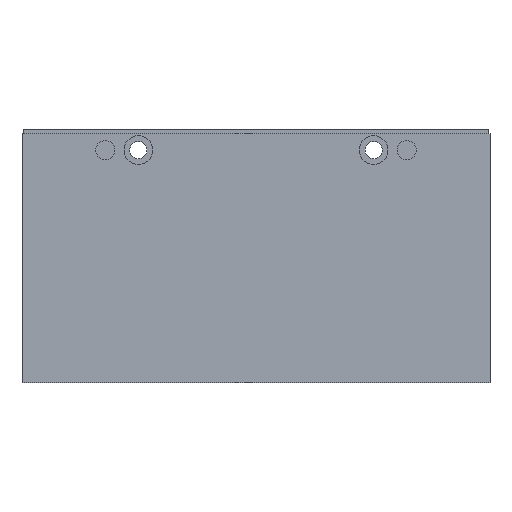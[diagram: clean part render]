
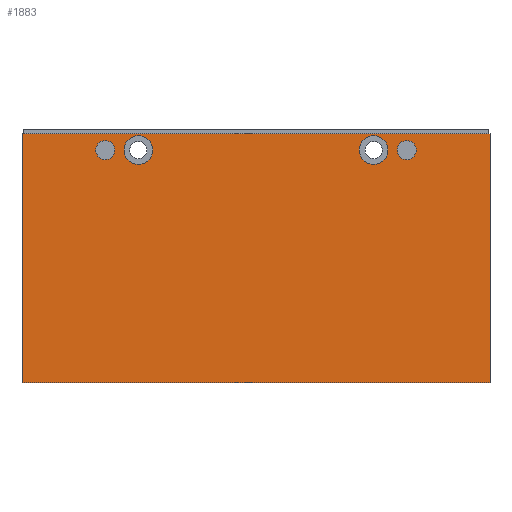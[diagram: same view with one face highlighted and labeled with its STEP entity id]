
A CAD part, left-side view. The second image highlights one B-rep face of the part: STEP entity #1883.
In plain terms, the highlighted planar face has unit normal (-1, 0, 0).
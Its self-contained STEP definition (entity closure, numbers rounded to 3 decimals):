
#393=DIRECTION('',(0.,0.,1.));
#394=VECTOR('',#393,67.77);
#395=CARTESIAN_POINT('',(-12.7,63.65,-69.));
#396=LINE('',#395,#394);
#417=CARTESIAN_POINT('',(-12.7,-32.,-5.69));
#418=DIRECTION('',(-1.,0.,0.));
#419=DIRECTION('',(0.,1.,0.));
#420=AXIS2_PLACEMENT_3D('',#417,#418,#419);
#422=CARTESIAN_POINT('',(-12.7,-32.,-5.69));
#423=DIRECTION('',(-1.,0.,0.));
#424=DIRECTION('',(0.,-1.,0.));
#425=AXIS2_PLACEMENT_3D('',#422,#423,#424);
#427=CARTESIAN_POINT('',(-12.7,32.,-5.69));
#428=DIRECTION('',(-1.,0.,0.));
#429=DIRECTION('',(0.,1.,0.));
#430=AXIS2_PLACEMENT_3D('',#427,#428,#429);
#432=CARTESIAN_POINT('',(-12.7,32.,-5.69));
#433=DIRECTION('',(-1.,0.,0.));
#434=DIRECTION('',(0.,-1.,0.));
#435=AXIS2_PLACEMENT_3D('',#432,#433,#434);
#437=CARTESIAN_POINT('',(-12.7,-41.,-5.69));
#438=DIRECTION('',(1.,0.,0.));
#439=DIRECTION('',(0.,1.,0.));
#440=AXIS2_PLACEMENT_3D('',#437,#438,#439);
#442=CARTESIAN_POINT('',(-12.7,-41.,-5.69));
#443=DIRECTION('',(1.,0.,0.));
#444=DIRECTION('',(0.,-1.,0.));
#445=AXIS2_PLACEMENT_3D('',#442,#443,#444);
#447=CARTESIAN_POINT('',(-12.7,41.,-5.69));
#448=DIRECTION('',(1.,0.,0.));
#449=DIRECTION('',(0.,1.,0.));
#450=AXIS2_PLACEMENT_3D('',#447,#448,#449);
#452=CARTESIAN_POINT('',(-12.7,41.,-5.69));
#453=DIRECTION('',(1.,0.,0.));
#454=DIRECTION('',(0.,-1.,0.));
#455=AXIS2_PLACEMENT_3D('',#452,#453,#454);
#457=DIRECTION('',(0.,1.,0.));
#458=VECTOR('',#457,127.3);
#459=CARTESIAN_POINT('',(-12.7,-63.65,-1.23));
#460=LINE('',#459,#458);
#461=DIRECTION('',(0.,1.,0.));
#462=VECTOR('',#461,127.3);
#463=CARTESIAN_POINT('',(-12.7,-63.65,-69.));
#464=LINE('',#463,#462);
#689=DIRECTION('',(0.,0.,1.));
#690=VECTOR('',#689,67.77);
#691=CARTESIAN_POINT('',(-12.7,-63.65,-69.));
#692=LINE('',#691,#690);
#933=CARTESIAN_POINT('',(-12.7,-63.65,-69.));
#934=CARTESIAN_POINT('',(-12.7,63.65,-69.));
#935=VERTEX_POINT('',#933);
#936=VERTEX_POINT('',#934);
#945=CARTESIAN_POINT('',(-12.7,-38.418,-5.69));
#946=CARTESIAN_POINT('',(-12.7,-43.583,-5.69));
#947=VERTEX_POINT('',#945);
#948=VERTEX_POINT('',#946);
#957=CARTESIAN_POINT('',(-12.7,-28.1,-5.69));
#958=CARTESIAN_POINT('',(-12.7,-35.9,-5.69));
#959=VERTEX_POINT('',#957);
#960=VERTEX_POINT('',#958);
#969=CARTESIAN_POINT('',(-12.7,-63.65,-1.23));
#970=CARTESIAN_POINT('',(-12.7,63.65,-1.23));
#971=VERTEX_POINT('',#969);
#972=VERTEX_POINT('',#970);
#1023=CARTESIAN_POINT('',(-12.7,43.583,-5.69));
#1024=CARTESIAN_POINT('',(-12.7,38.418,-5.69));
#1025=VERTEX_POINT('',#1023);
#1026=VERTEX_POINT('',#1024);
#1051=CARTESIAN_POINT('',(-12.7,35.9,-5.69));
#1052=CARTESIAN_POINT('',(-12.7,28.1,-5.69));
#1053=VERTEX_POINT('',#1051);
#1054=VERTEX_POINT('',#1052);
#1846=CARTESIAN_POINT('',(-12.7,-63.65,-69.));
#1847=DIRECTION('',(-1.,0.,0.));
#1848=DIRECTION('',(0.,0.,1.));
#1849=AXIS2_PLACEMENT_3D('',#1846,#1847,#1848);
#1850=PLANE('',#1849);
#1851=ORIENTED_EDGE('',*,*,#1837,.F.);
#1853=ORIENTED_EDGE('',*,*,#1852,.F.);
#1855=ORIENTED_EDGE('',*,*,#1854,.T.);
#1856=ORIENTED_EDGE('',*,*,#1809,.T.);
#1857=EDGE_LOOP('',(#1851,#1853,#1855,#1856));
#1858=FACE_OUTER_BOUND('',#1857,.F.);
#1860=ORIENTED_EDGE('',*,*,#1859,.T.);
#1862=ORIENTED_EDGE('',*,*,#1861,.T.);
#1863=EDGE_LOOP('',(#1860,#1862));
#1864=FACE_BOUND('',#1863,.F.);
#1866=ORIENTED_EDGE('',*,*,#1865,.T.);
#1868=ORIENTED_EDGE('',*,*,#1867,.T.);
#1869=EDGE_LOOP('',(#1866,#1868));
#1870=FACE_BOUND('',#1869,.F.);
#1872=ORIENTED_EDGE('',*,*,#1871,.F.);
#1874=ORIENTED_EDGE('',*,*,#1873,.F.);
#1875=EDGE_LOOP('',(#1872,#1874));
#1876=FACE_BOUND('',#1875,.F.);
#1878=ORIENTED_EDGE('',*,*,#1877,.F.);
#1880=ORIENTED_EDGE('',*,*,#1879,.F.);
#1881=EDGE_LOOP('',(#1878,#1880));
#1882=FACE_BOUND('',#1881,.F.);
#1883=ADVANCED_FACE('',(#1858,#1864,#1870,#1876,#1882),#1850,.T.);
#421=CIRCLE('',#420,3.9);
#426=CIRCLE('',#425,3.9);
#431=CIRCLE('',#430,3.9);
#436=CIRCLE('',#435,3.9);
#441=CIRCLE('',#440,2.583);
#446=CIRCLE('',#445,2.583);
#451=CIRCLE('',#450,2.583);
#456=CIRCLE('',#455,2.583);
#1809=EDGE_CURVE('',#936,#972,#396,.T.);
#1837=EDGE_CURVE('',#971,#972,#460,.T.);
#1852=EDGE_CURVE('',#935,#971,#692,.T.);
#1854=EDGE_CURVE('',#935,#936,#464,.T.);
#1859=EDGE_CURVE('',#959,#960,#421,.T.);
#1861=EDGE_CURVE('',#960,#959,#426,.T.);
#1865=EDGE_CURVE('',#1053,#1054,#431,.T.);
#1867=EDGE_CURVE('',#1054,#1053,#436,.T.);
#1871=EDGE_CURVE('',#947,#948,#441,.T.);
#1873=EDGE_CURVE('',#948,#947,#446,.T.);
#1877=EDGE_CURVE('',#1025,#1026,#451,.T.);
#1879=EDGE_CURVE('',#1026,#1025,#456,.T.);
